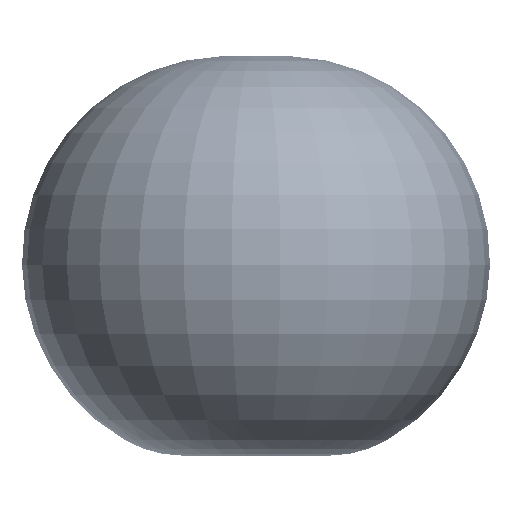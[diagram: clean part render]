
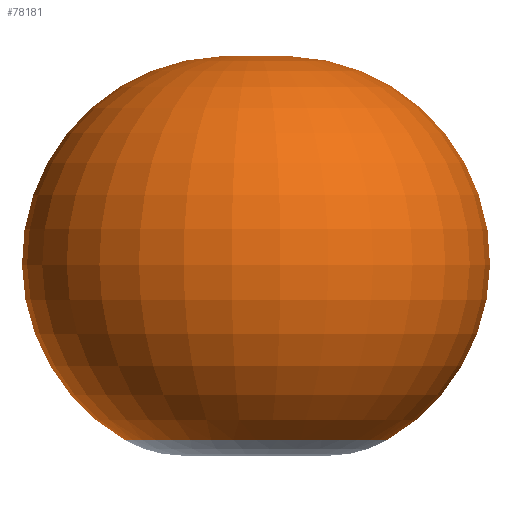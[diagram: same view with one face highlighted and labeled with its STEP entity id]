
A CAD part, left-side view. The second image highlights one B-rep face of the part: STEP entity #78181.
In plain terms, the highlighted toroidal (fillet/blend) face has major radius 180 mm and minor radius 1309.4 mm.
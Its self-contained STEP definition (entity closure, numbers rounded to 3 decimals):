
#15318 = TOROIDAL_SURFACE ( 'NONE', #232193, 180., 1309.4 ) ;
#19912 = CARTESIAN_POINT ( 'NONE',  ( 0., -696.974, 834.7 ) ) ;
#21299 = EDGE_CURVE ( 'NONE', #82737, #116749, #215750, .T. ) ;
#25738 = DIRECTION ( 'NONE',  ( 0., 0., 1. ) ) ;
#27246 = ORIENTED_EDGE ( 'NONE', *, *, #135381, .T. ) ;
#32705 = EDGE_CURVE ( 'NONE', #321592, #82737, #63964, .T. ) ;
#40628 = EDGE_LOOP ( 'NONE', ( #175589, #27246, #231970 ) ) ;
#42540 = CARTESIAN_POINT ( 'NONE',  ( 0., -696.974, 0. ) ) ;
#53345 = CARTESIAN_POINT ( 'NONE',  ( 0., 437., -180. ) ) ;
#63964 = CIRCLE ( 'NONE', #382641, 1309.4 ) ;
#78181 = ADVANCED_FACE ( 'NONE', ( #414761 ), #15318, .T. ) ;
#82737 = VERTEX_POINT ( 'NONE', #217646 ) ;
#100371 = AXIS2_PLACEMENT_3D ( 'NONE', #42540, #333290, #106144 ) ;
#106144 = DIRECTION ( 'NONE',  ( 0., 0., -1. ) ) ;
#116749 = VERTEX_POINT ( 'NONE', #19912 ) ;
#133435 = CIRCLE ( 'NONE', #370791, 1309.4 ) ;
#135381 = EDGE_CURVE ( 'NONE', #321592, #116749, #133435, .T. ) ;
#164098 = CARTESIAN_POINT ( 'NONE',  ( 0., 437., 0. ) ) ;
#175589 = ORIENTED_EDGE ( 'NONE', *, *, #32705, .F. ) ;
#178734 = DIRECTION ( 'NONE',  ( 1., 0., 0. ) ) ;
#208453 = DIRECTION ( 'NONE',  ( 0., 0., -1. ) ) ;
#215750 = CIRCLE ( 'NONE', #100371, 834.7 ) ;
#217646 = CARTESIAN_POINT ( 'NONE',  ( 0., -696.974, -834.7 ) ) ;
#231970 = ORIENTED_EDGE ( 'NONE', *, *, #21299, .F. ) ;
#232193 = AXIS2_PLACEMENT_3D ( 'NONE', #164098, #325618, #287440 ) ;
#236172 = CARTESIAN_POINT ( 'NONE',  ( 0., 437., 180. ) ) ;
#287440 = DIRECTION ( 'NONE',  ( 0., 0., -1. ) ) ;
#320298 = CARTESIAN_POINT ( 'NONE',  ( 0., 1733.969, 0. ) ) ;
#321592 = VERTEX_POINT ( 'NONE', #320298 ) ;
#325618 = DIRECTION ( 'NONE',  ( 0., -1., 0. ) ) ;
#333290 = DIRECTION ( 'NONE',  ( 0., -1., 0. ) ) ;
#370791 = AXIS2_PLACEMENT_3D ( 'NONE', #236172, #178734, #208453 ) ;
#382246 = DIRECTION ( 'NONE',  ( -1., 0., 0. ) ) ;
#382641 = AXIS2_PLACEMENT_3D ( 'NONE', #53345, #382246, #25738 ) ;
#414761 = FACE_OUTER_BOUND ( 'NONE', #40628, .T. ) ;
